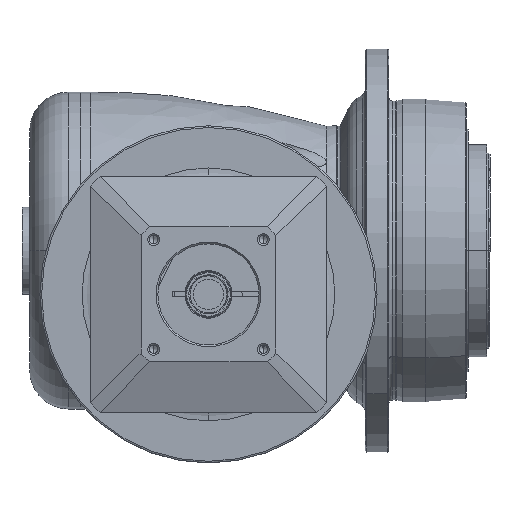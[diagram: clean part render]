
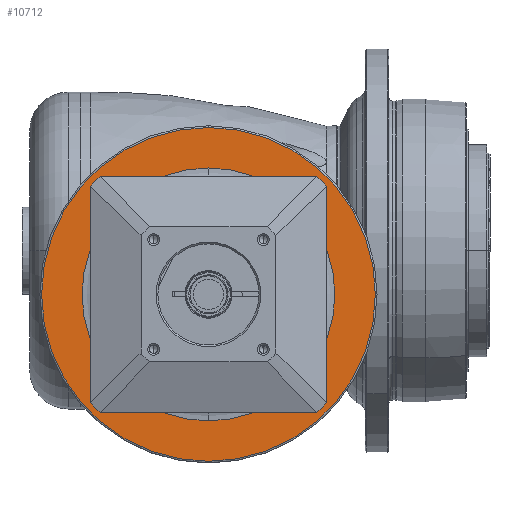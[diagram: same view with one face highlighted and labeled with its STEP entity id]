
A CAD part, front view. The second image highlights one B-rep face of the part: STEP entity #10712.
In plain terms, the highlighted planar face has unit normal (0, -1, 0) as drawn and (1, 0, 0) by its records, which use the part's own axes.
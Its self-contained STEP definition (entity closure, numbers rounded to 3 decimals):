
#9743=CARTESIAN_POINT('',(-10.,0.,0.));
#9744=DIRECTION('',(-1.,0.,0.));
#9745=DIRECTION('',(0.,-1.,0.));
#9746=AXIS2_PLACEMENT_3D('',#9743,#9744,#9745);
#9748=CARTESIAN_POINT('',(-10.,0.,0.));
#9749=DIRECTION('',(-1.,0.,0.));
#9750=DIRECTION('',(0.,1.,0.));
#9751=AXIS2_PLACEMENT_3D('',#9748,#9749,#9750);
#9753=CARTESIAN_POINT('',(-10.,0.,0.));
#9754=DIRECTION('',(-1.,0.,0.));
#9755=DIRECTION('',(0.,-1.,0.));
#9756=AXIS2_PLACEMENT_3D('',#9753,#9754,#9755);
#9758=CARTESIAN_POINT('',(-10.,0.,0.));
#9759=DIRECTION('',(-1.,0.,0.));
#9760=DIRECTION('',(0.,1.,0.));
#9761=AXIS2_PLACEMENT_3D('',#9758,#9759,#9760);
#10005=CARTESIAN_POINT('',(-10.,-49.5,0.));
#10006=CARTESIAN_POINT('',(-10.,49.5,0.));
#10007=VERTEX_POINT('',#10005);
#10008=VERTEX_POINT('',#10006);
#10063=CARTESIAN_POINT('',(-10.,-37.5,0.));
#10064=CARTESIAN_POINT('',(-10.,37.5,0.));
#10065=VERTEX_POINT('',#10063);
#10066=VERTEX_POINT('',#10064);
#10697=CARTESIAN_POINT('',(-10.,0.,0.));
#10698=DIRECTION('',(1.,0.,0.));
#10699=DIRECTION('',(0.,-1.,0.));
#10700=AXIS2_PLACEMENT_3D('',#10697,#10698,#10699);
#10701=PLANE('',#10700);
#10702=ORIENTED_EDGE('',*,*,#10653,.T.);
#10703=ORIENTED_EDGE('',*,*,#10638,.T.);
#10704=EDGE_LOOP('',(#10702,#10703));
#10705=FACE_OUTER_BOUND('',#10704,.F.);
#10707=ORIENTED_EDGE('',*,*,#10706,.F.);
#10709=ORIENTED_EDGE('',*,*,#10708,.F.);
#10710=EDGE_LOOP('',(#10707,#10709));
#10711=FACE_BOUND('',#10710,.F.);
#10712=ADVANCED_FACE('',(#10705,#10711),#10701,.T.);
#9747=CIRCLE('',#9746,37.5);
#9752=CIRCLE('',#9751,37.5);
#9757=CIRCLE('',#9756,49.5);
#9762=CIRCLE('',#9761,49.5);
#10638=EDGE_CURVE('',#10008,#10007,#9762,.T.);
#10653=EDGE_CURVE('',#10007,#10008,#9757,.T.);
#10706=EDGE_CURVE('',#10065,#10066,#9747,.T.);
#10708=EDGE_CURVE('',#10066,#10065,#9752,.T.);
